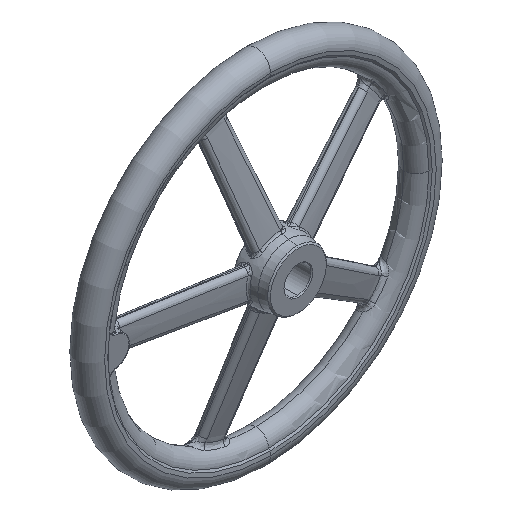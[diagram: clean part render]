
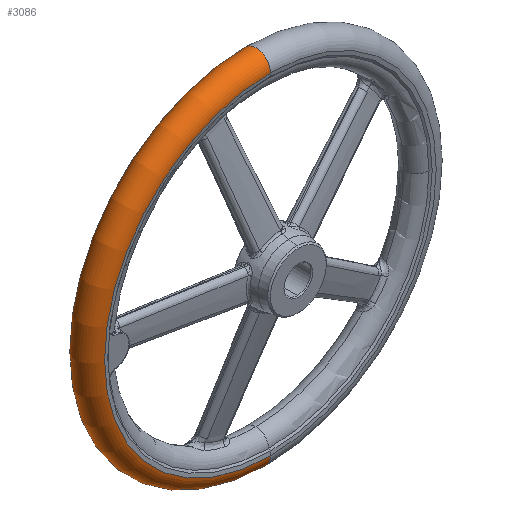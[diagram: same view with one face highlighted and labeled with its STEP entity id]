
A CAD part, isometric view. The second image highlights one B-rep face of the part: STEP entity #3086.
In plain terms, the highlighted toroidal (fillet/blend) face has major radius 184 mm and minor radius 16 mm.
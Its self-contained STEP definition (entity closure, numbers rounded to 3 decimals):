
#387 = ORIENTED_EDGE ( 'NONE', *, *, #14184, .T. ) ;
#394 = ORIENTED_EDGE ( 'NONE', *, *, #47758, .F. ) ;
#3086 = ADVANCED_FACE ( 'NONE', ( #24763 ), #24765, .T. ) ;
#3113 = EDGE_LOOP ( 'NONE', ( #36050, #387, #36081, #394 ) ) ;
#13852 = VERTEX_POINT ( 'NONE', #22647 ) ;
#13853 = VERTEX_POINT ( 'NONE', #22593 ) ;
#14184 = EDGE_CURVE ( 'NONE', #13852, #13853, #32490, .T. ) ;
#22593 = CARTESIAN_POINT ( 'NONE',  ( 0., 63., -184. ) ) ;
#22647 = CARTESIAN_POINT ( 'NONE',  ( 0., 63., 184. ) ) ;
#24732 = DIRECTION ( 'NONE',  ( 0., 0., -1. ) ) ;
#24747 = DIRECTION ( 'NONE',  ( 0., -1., 0. ) ) ;
#24748 = CARTESIAN_POINT ( 'NONE',  ( 0., 47., 0. ) ) ;
#24753 = AXIS2_PLACEMENT_3D ( 'NONE', #24748, #24747, #24732 ) ;
#24763 = FACE_OUTER_BOUND ( 'NONE', #3113, .T. ) ;
#24765 = TOROIDAL_SURFACE ( 'NONE', #24753, 184., 16. ) ;
#32478 = DIRECTION ( 'NONE',  ( 0., 0., -1. ) ) ;
#32480 = DIRECTION ( 'NONE',  ( 0., -1., 0. ) ) ;
#32482 = CARTESIAN_POINT ( 'NONE',  ( 0., 63., 0. ) ) ;
#32484 = AXIS2_PLACEMENT_3D ( 'NONE', #32482, #32480, #32478 ) ;
#32490 = CIRCLE ( 'NONE', #32484, 184. ) ;
#36050 = ORIENTED_EDGE ( 'NONE', *, *, #47745, .F. ) ;
#36081 = ORIENTED_EDGE ( 'NONE', *, *, #47765, .T. ) ;
#47738 = VERTEX_POINT ( 'NONE', #50915 ) ;
#47741 = VERTEX_POINT ( 'NONE', #50913 ) ;
#47745 = EDGE_CURVE ( 'NONE', #13852, #47738, #50910, .T. ) ;
#47758 = EDGE_CURVE ( 'NONE', #47738, #47741, #50904, .T. ) ;
#47765 = EDGE_CURVE ( 'NONE', #13853, #47741, #50955, .T. ) ;
#50903 = AXIS2_PLACEMENT_3D ( 'NONE', #50965, #50954, #50953 ) ;
#50904 = CIRCLE ( 'NONE', #50903, 184. ) ;
#50906 = DIRECTION ( 'NONE',  ( 0., 0., -1. ) ) ;
#50907 = DIRECTION ( 'NONE',  ( 1., 0., 0. ) ) ;
#50908 = AXIS2_PLACEMENT_3D ( 'NONE', #50914, #50907, #50906 ) ;
#50910 = CIRCLE ( 'NONE', #50908, 16. ) ;
#50913 = CARTESIAN_POINT ( 'NONE',  ( 0., 31., -184. ) ) ;
#50914 = CARTESIAN_POINT ( 'NONE',  ( 0., 47., 184. ) ) ;
#50915 = CARTESIAN_POINT ( 'NONE',  ( 0., 31., 184. ) ) ;
#50941 = DIRECTION ( 'NONE',  ( 0., 0., 1. ) ) ;
#50942 = DIRECTION ( 'NONE',  ( -1., 0., 0. ) ) ;
#50943 = CARTESIAN_POINT ( 'NONE',  ( 0., 47., -184. ) ) ;
#50953 = DIRECTION ( 'NONE',  ( 0., 0., -1. ) ) ;
#50954 = DIRECTION ( 'NONE',  ( 0., -1., 0. ) ) ;
#50955 = CIRCLE ( 'NONE', #50956, 16. ) ;
#50956 = AXIS2_PLACEMENT_3D ( 'NONE', #50943, #50942, #50941 ) ;
#50965 = CARTESIAN_POINT ( 'NONE',  ( 0., 31., 0. ) ) ;
